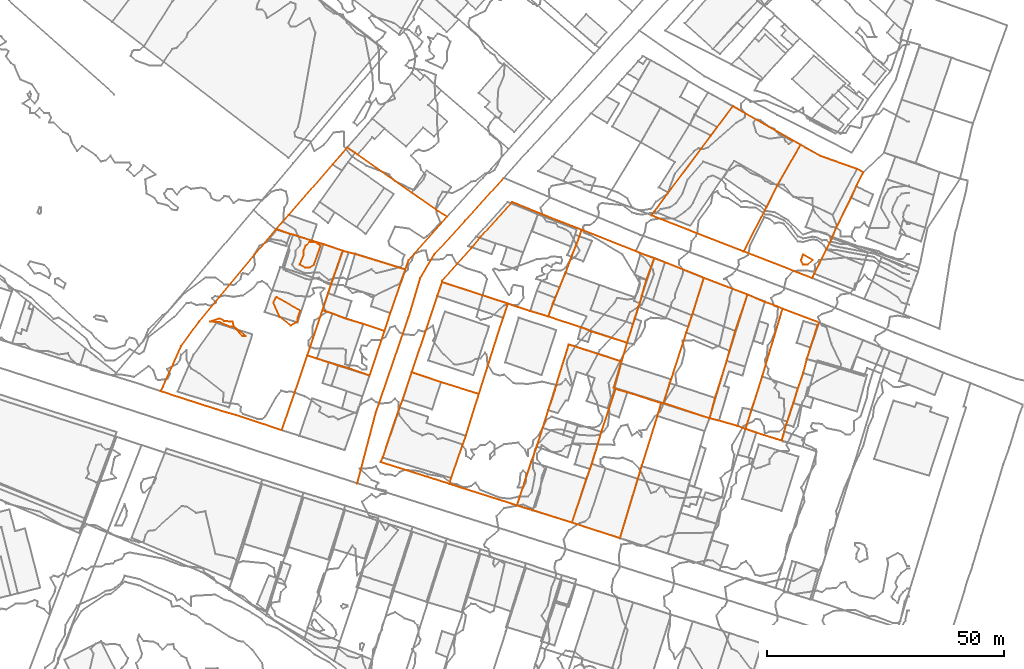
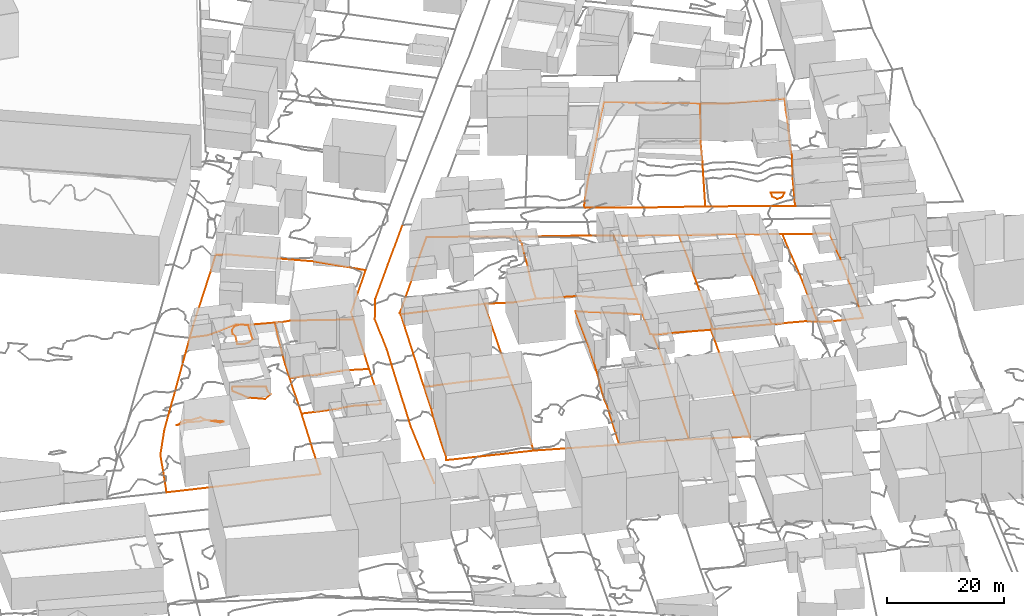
# Not in any storey, part 198 of 419: 22 proxies.
"""IFC2X3 model written with IfcOpenShell, lengths in metres."""

from ifc_helpers import new_model, entity, si_unit, frame, origin_with_axes, place, context, subcontext, project, element, save


model = new_model("IFC2X3")

# Units and contexts
model_context = context("Model", 3, precision=1e-05, world=origin_with_axes())
body_context = subcontext(model_context, "Body", "Model", "MODEL_VIEW")
ifc_project = project(units=[si_unit("AREAUNIT", "SQUARE_METRE"), si_unit("LENGTHUNIT", "METRE")], contexts=[model_context])

# Proxies
proxy_1_placement = place(None, frame((860.0920204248, 156.7976909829, 75.8), z_axis=(0.0, 0.0, 1.0), x_axis=(1.0, 0.0, 0.0)))
element("IfcBuildingElementProxy", 1, at=proxy_1_placement, Name="Route 216", ObjectType="NOTDEFINED", context=body_context, shape_type="GeometricCurveSet", body=[
    entity("IfcGeometricCurveSet", [entity("IfcPolyline", [entity("IfcCartesianPoint", [30.9, 64.3999999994, 3.8]), entity("IfcCartesianPoint", [22.8, 55.3999999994, 3.7]), entity("IfcCartesianPoint", [16.2, 48.1999999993, 3.4]), entity("IfcCartesianPoint", [13.3, 43.2999999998, 3.2]), entity("IfcCartesianPoint", [10.8, 34.8999999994, 2.9]), entity("IfcCartesianPoint", [3.9, 14.7999999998, 1.5]), entity("IfcCartesianPoint", [0.0, 0.0, 0.0])])]),
])
proxy_2_placement = place(None, frame((818.6120204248, 176.2276909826, 76.6150715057), z_axis=(0.0, 0.0, 1.0), x_axis=(1.0, 0.0, 0.0)))
element("IfcBuildingElementProxy", 2, at=proxy_2_placement, Name="Cadastre 124", ObjectType="NOTDEFINED", context=body_context, shape_type="GeometricCurveSet", body=[
    entity("IfcGeometricCurveSet", [entity("IfcPolyline", [entity("IfcCartesianPoint", [24.29, 34.1100000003, 2.8999694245]), entity("IfcCartesianPoint", [24.61, 34.1100000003, 2.899393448]), entity("IfcCartesianPoint", [27.33, 33.1699999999, 2.9764266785]), entity("IfcCartesianPoint", [27.97, 33.0099999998, 3.1379470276]), entity("IfcCartesianPoint", [31.91, 31.7300000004, 4.5368541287]), entity("IfcCartesianPoint", [34.4, 30.9900000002, 4.0248895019]), entity("IfcCartesianPoint", [38.4399999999, 29.6100000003, 3.8782244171]), entity("IfcCartesianPoint", [35.97, 22.6200000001, 2.209250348]), entity("IfcCartesianPoint", [35.33, 20.6200000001, 1.6354044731]), entity("IfcCartesianPoint", [34.15, 17.0599999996, 1.371855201]), entity("IfcCartesianPoint", [30.95, 7.54, 0.9707933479]), entity("IfcCartesianPoint", [25.59, -8.2400000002, -0.1774764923]), entity("IfcCartesianPoint", [15.9399999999, -5.04, -0.0717098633]), entity("IfcCartesianPoint", [14.0600000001, -4.5199999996, -0.0953141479]), entity("IfcCartesianPoint", [11.71, -3.7999999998, -0.0895963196]), entity("IfcCartesianPoint", [0.0, 0.0, 0.0]), entity("IfcCartesianPoint", [0.52, 0.96, 0.0236245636]), entity("IfcCartesianPoint", [4.35, 9.5200000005, 0.5968636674]), entity("IfcCartesianPoint", [8.13, 14.71, 1.256738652]), entity("IfcCartesianPoint", [24.29, 34.1100000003, 2.8999694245])])]),
])
proxy_3_placement = place(None, frame((842.9020204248, 210.337690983, 79.5150409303), z_axis=(0.0, 0.0, 1.0), x_axis=(1.0, 0.0, 0.0)))
element("IfcBuildingElementProxy", 3, at=proxy_3_placement, Name="Cadastre 127", ObjectType="NOTDEFINED", context=body_context, shape_type="GeometricCurveSet", body=[
    entity("IfcGeometricCurveSet", [entity("IfcPolyline", [entity("IfcCartesianPoint", [0.0, 0.0, 0.0]), entity("IfcCartesianPoint", [2.72, 3.0299999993, 0.7708949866]), entity("IfcCartesianPoint", [11.98, 13.6799999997, 1.2359597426]), entity("IfcCartesianPoint", [15.0699999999, 17.2399999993, 1.5703568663]), entity("IfcCartesianPoint", [16.75, 16.1099999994, 1.6693973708]), entity("IfcCartesianPoint", [17.27, 15.75, 1.7071150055]), entity("IfcCartesianPoint", [28.64, 7.7399999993, 1.2141356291]), entity("IfcCartesianPoint", [33.7899999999, 4.1699999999, 0.3341988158]), entity("IfcCartesianPoint", [36.1499999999, 2.6799999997, -0.1968492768]), entity("IfcCartesianPoint", [28.0399999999, -6.4300000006, -0.5349222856]), entity("IfcCartesianPoint", [27.34, -8.46, -0.601481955]), entity("IfcCartesianPoint", [16.7899999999, -5.1900000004, 0.8812071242]), entity("IfcCartesianPoint", [15.39, -4.8600000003, 0.883437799]), entity("IfcCartesianPoint", [14.1499999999, -4.5, 0.9782549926]), entity("IfcCartesianPoint", [10.11, -3.1200000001, 1.1249200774]), entity("IfcCartesianPoint", [7.62, -2.3799999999, 1.6368847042]), entity("IfcCartesianPoint", [3.6799999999, -1.1000000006, 0.237977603]), entity("IfcCartesianPoint", [3.0399999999, -0.9400000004, 0.0764572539]), entity("IfcCartesianPoint", [0.3199999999, 0.0, -0.0005759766]), entity("IfcCartesianPoint", [0.0, 0.0, 0.0])])]),
])
proxy_4_placement = place(None, frame((852.7620204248, 193.2876909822, 77.9869267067), z_axis=(0.0, 0.0, 1.0), x_axis=(1.0, 0.0, 0.0)))
element("IfcBuildingElementProxy", 4, at=proxy_4_placement, Name="Cadastre 128", ObjectType="NOTDEFINED", context=body_context, shape_type="GeometricCurveSet", body=[
    entity("IfcGeometricCurveSet", [entity("IfcPolyline", [entity("IfcCartesianPoint", [4.2899999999, 12.5500000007, 2.5063692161]), entity("IfcCartesianPoint", [5.53, 12.1900000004, 2.4115520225]), entity("IfcCartesianPoint", [6.9299999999, 11.8600000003, 2.4093213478]), entity("IfcCartesianPoint", [17.48, 8.5900000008, 0.9266322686]), entity("IfcCartesianPoint", [14.33, -0.6099999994, 0.3020736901]), entity("IfcCartesianPoint", [13.08, -4.3699999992, 0.0419753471]), entity("IfcCartesianPoint", [8.6, -2.8699999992, 0.402640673]), entity("IfcCartesianPoint", [4.97, -1.7699999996, 0.2713469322]), entity("IfcCartesianPoint", [2.12, -0.6799999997, 0.1374939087]), entity("IfcCartesianPoint", [0.0, 0.0, 0.0]), entity("IfcCartesianPoint", [1.1799999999, 3.5600000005, 0.2635492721]), entity("IfcCartesianPoint", [1.8199999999, 5.5600000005, 0.8373951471]), entity("IfcCartesianPoint", [4.2899999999, 12.5500000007, 2.5063692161])])]),
])
proxy_5_placement = place(None, frame((849.5620204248, 183.7676909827, 77.5858648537), z_axis=(0.0, 0.0, 1.0), x_axis=(1.0, 0.0, 0.0)))
element("IfcBuildingElementProxy", 5, at=proxy_5_placement, Name="Cadastre 129", ObjectType="NOTDEFINED", context=body_context, shape_type="GeometricCurveSet", body=[
    entity("IfcGeometricCurveSet", [entity("IfcPolyline", [entity("IfcCartesianPoint", [16.28, 5.1500000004, 0.4430372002]), entity("IfcCartesianPoint", [13.17, -4.2400000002, -0.0792419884]), entity("IfcCartesianPoint", [8.76, -2.71, 0.2060274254]), entity("IfcCartesianPoint", [6.53, -2.1399999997, 0.1897836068]), entity("IfcCartesianPoint", [4.53, -1.4900000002, 0.0401333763]), entity("IfcCartesianPoint", [2.0600000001, -0.6799999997, 0.0139716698]), entity("IfcCartesianPoint", [0.0, 0.0, 0.0]), entity("IfcCartesianPoint", [3.2000000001, 9.5199999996, 0.401061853]), entity("IfcCartesianPoint", [5.3200000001, 8.8399999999, 0.5385557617]), entity("IfcCartesianPoint", [8.17, 7.75, 0.6724087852]), entity("IfcCartesianPoint", [11.8, 6.6500000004, 0.8037025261]), entity("IfcCartesianPoint", [16.28, 5.1500000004, 0.4430372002])])]),
])
proxy_6_placement = place(None, frame((865.0120204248, 161.2676909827, 76.1453077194), z_axis=(0.0, 0.0, 1.0), x_axis=(1.0, 0.0, 0.0)))
element("IfcBuildingElementProxy", 6, at=proxy_6_placement, Name="Cadastre 131", ObjectType="NOTDEFINED", context=body_context, shape_type="GeometricCurveSet", body=[
    entity("IfcGeometricCurveSet", [entity("IfcPolyline", [entity("IfcCartesianPoint", [6.59, 18.9699999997, 1.4277777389]), entity("IfcCartesianPoint", [12.75, 16.8499999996, 1.5331804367]), entity("IfcCartesianPoint", [20.73, 14.3799999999, 1.3268158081]), entity("IfcCartesianPoint", [17.98, 5.5300000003, 1.1402940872]), entity("IfcCartesianPoint", [14.88, -3.3499999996, 0.1026116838]), entity("IfcCartesianPoint", [14.53, -4.5899999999, -0.3269861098]), entity("IfcCartesianPoint", [0.0, 0.0, 0.0]), entity("IfcCartesianPoint", [0.47, 0.9100000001, 0.0874661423]), entity("IfcCartesianPoint", [1.5699999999, 4.3600000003, 0.3893198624]), entity("IfcCartesianPoint", [4.03, 11.5499999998, 0.9216023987]), entity("IfcCartesianPoint", [4.64, 13.0899999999, 1.0460944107]), entity("IfcCartesianPoint", [6.59, 18.9699999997, 1.4277777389])])]),
])
proxy_7_placement = place(None, frame((871.6020204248, 180.2376909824, 77.5730854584), z_axis=(0.0, 0.0, 1.0), x_axis=(1.0, 0.0, 0.0)))
element("IfcBuildingElementProxy", 7, at=proxy_7_placement, Name="Cadastre 132", ObjectType="NOTDEFINED", context=body_context, shape_type="GeometricCurveSet", body=[
    entity("IfcGeometricCurveSet", [entity("IfcPolyline", [entity("IfcCartesianPoint", [0.0, 0.0, 0.0]), entity("IfcCartesianPoint", [5.39, 16.0300000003, 1.16049375]), entity("IfcCartesianPoint", [6.4, 19.0, 1.292557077]), entity("IfcCartesianPoint", [20.28, 14.4199999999, 1.408185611]), entity("IfcCartesianPoint", [19.25, 11.4500000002, 1.0933612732]), entity("IfcCartesianPoint", [14.14, -4.5899999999, -0.1009619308]), entity("IfcCartesianPoint", [6.16, -2.1200000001, 0.1054026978]), entity("IfcCartesianPoint", [0.0, 0.0, 0.0])])]),
])
proxy_8_placement = place(None, frame((878.0020204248, 199.2376909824, 78.8656425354), z_axis=(0.0, 0.0, 1.0), x_axis=(1.0, 0.0, 0.0)))
element("IfcBuildingElementProxy", 8, at=proxy_8_placement, Name="Cadastre 136", ObjectType="NOTDEFINED", context=body_context, shape_type="GeometricCurveSet", body=[
    entity("IfcGeometricCurveSet", [entity("IfcPolyline", [entity("IfcCartesianPoint", [13.88, -4.5800000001, 0.1156285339]), entity("IfcCartesianPoint", [0.0, 0.0, 0.0]), entity("IfcCartesianPoint", [0.01, 0.3600000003, 0.009036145]), entity("IfcCartesianPoint", [6.45, 7.5100000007, 0.3009968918]), entity("IfcCartesianPoint", [8.14, 9.5499999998, 0.4168305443]), entity("IfcCartesianPoint", [14.78, 16.8700000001, 0.6649102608]), entity("IfcCartesianPoint", [21.16, 14.2400000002, 0.0875611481]), entity("IfcCartesianPoint", [29.4, 11.0300000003, -0.8435298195]), entity("IfcCartesianPoint", [29.1, 9.9900000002, -0.5538712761]), entity("IfcCartesianPoint", [28.14, 7.4500000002, 0.2035326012]), entity("IfcCartesianPoint", [27.41, 5.6699999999, 0.1279365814]), entity("IfcCartesianPoint", [26.03, 1.9400000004, -0.0836418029]), entity("IfcCartesianPoint", [24.76, -1.1899999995, -0.2867459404]), entity("IfcCartesianPoint", [23.8099999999, -3.3599999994, -0.2440994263]), entity("IfcCartesianPoint", [23.34, -4.6600000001, -0.3177447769]), entity("IfcCartesianPoint", [22.42, -7.29, -0.1891802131]), entity("IfcCartesianPoint", [18.5499999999, -6.0999999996, -0.3218977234]), entity("IfcCartesianPoint", [13.88, -4.5800000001, 0.1156285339])])]),
])
proxy_9_placement = place(None, frame((900.4220204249, 191.9476909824, 78.6764623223), z_axis=(0.0, 0.0, 1.0), x_axis=(1.0, 0.0, 0.0)))
element("IfcBuildingElementProxy", 9, at=proxy_9_placement, Name="Cadastre 137", ObjectType="NOTDEFINED", context=body_context, shape_type="GeometricCurveSet", body=[
    entity("IfcGeometricCurveSet", [entity("IfcPolyline", [entity("IfcCartesianPoint", [16.6, -5.5199999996, -2.5641612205]), entity("IfcCartesianPoint", [9.0399999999, -3.1200000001, -0.9398603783]), entity("IfcCartesianPoint", [6.9099999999, -2.2599999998, -0.4621178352]), entity("IfcCartesianPoint", [0.0, 0.0, 0.0]), entity("IfcCartesianPoint", [0.9199999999, 2.6299999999, -0.1285645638]), entity("IfcCartesianPoint", [1.3899999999, 3.9300000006, -0.0549192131]), entity("IfcCartesianPoint", [2.34, 6.1000000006, -0.0975657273]), entity("IfcCartesianPoint", [3.61, 9.2300000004, 0.1055384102]), entity("IfcCartesianPoint", [4.99, 12.96, 0.3171167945]), entity("IfcCartesianPoint", [5.72, 14.7400000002, 0.3927128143]), entity("IfcCartesianPoint", [6.6799999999, 17.2800000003, -0.364691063]), entity("IfcCartesianPoint", [6.98, 18.3200000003, -0.6543496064]), entity("IfcCartesianPoint", [19.5, 13.3399999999, -1.7378859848]), entity("IfcCartesianPoint", [22.3199999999, 12.3000000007, -2.1426386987]), entity("IfcCartesianPoint", [20.6299999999, 7.7400000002, -1.4184629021]), entity("IfcCartesianPoint", [19.6899999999, 4.3600000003, -1.6044635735]), entity("IfcCartesianPoint", [19.25, 2.7800000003, -1.7677321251]), entity("IfcCartesianPoint", [18.9399999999, 2.0200000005, -1.956939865]), entity("IfcCartesianPoint", [18.21, -0.4299999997, -2.3753419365]), entity("IfcCartesianPoint", [17.83, -1.5199999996, -2.3421604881]), entity("IfcCartesianPoint", [16.6, -5.5199999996, -2.5641612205])])]),
])
proxy_10_placement = place(None, frame((893.7620204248, 152.1376909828, 74.8282110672), z_axis=(0.0, 0.0, 1.0), x_axis=(1.0, 0.0, 0.0)))
element("IfcBuildingElementProxy", 10, at=proxy_10_placement, Name="Cadastre 138", ObjectType="NOTDEFINED", context=body_context, shape_type="GeometricCurveSet", body=[
    entity("IfcGeometricCurveSet", [entity("IfcPolyline", [entity("IfcCartesianPoint", [0.0, 0.0, 0.0]), entity("IfcCartesianPoint", [3.0399999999, 9.2000000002, 1.1669357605]), entity("IfcCartesianPoint", [4.22, 12.3700000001, 0.3344899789]), entity("IfcCartesianPoint", [5.4399999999, 16.3499999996, 1.7290168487]), entity("IfcCartesianPoint", [6.64, 20.0700000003, 2.4459028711]), entity("IfcCartesianPoint", [8.0499999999, 24.3300000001, 2.9097696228]), entity("IfcCartesianPoint", [8.36, 25.5999999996, 3.1183612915]), entity("IfcCartesianPoint", [10.95, 33.9299999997, 3.3242838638]), entity("IfcCartesianPoint", [22.1, 30.3200000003, 0.9811261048]), entity("IfcCartesianPoint", [21.9299999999, 29.96, 0.9753879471]), entity("IfcCartesianPoint", [21.4399999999, 27.8799999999, 0.8677893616]), entity("IfcCartesianPoint", [20.4399999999, 24.8700000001, 0.7973075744]), entity("IfcCartesianPoint", [20.7899999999, 24.54, 0.6799490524]), entity("IfcCartesianPoint", [19.4399999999, 20.3399999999, 0.9766324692]), entity("IfcCartesianPoint", [19.13, 19.4199999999, 1.1097471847]), entity("IfcCartesianPoint", [17.8199999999, 15.4900000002, 0.9061707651]), entity("IfcCartesianPoint", [15.85, 8.79, -0.6032353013]), entity("IfcCartesianPoint", [15.4199999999, 7.6299999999, -0.5402791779]), entity("IfcCartesianPoint", [14.63, 5.5300000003, -0.5234136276]), entity("IfcCartesianPoint", [11.63, -3.6399999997, -0.7938090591]), entity("IfcCartesianPoint", [3.37, -1.0099999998, -0.0731583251]), entity("IfcCartesianPoint", [0.0, 0.0, 0.0])])]),
])
proxy_11_placement = place(None, frame((879.5420204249, 156.6776909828, 75.8183216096), z_axis=(0.0, 0.0, 1.0), x_axis=(1.0, 0.0, 0.0)))
element("IfcBuildingElementProxy", 11, at=proxy_11_placement, Name="Cadastre 139", ObjectType="NOTDEFINED", context=body_context, shape_type="GeometricCurveSet", body=[
    entity("IfcGeometricCurveSet", [entity("IfcPolyline", [entity("IfcCartesianPoint", [0.0, 0.0, 0.0]), entity("IfcCartesianPoint", [0.35, 1.2400000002, 0.4295977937]), entity("IfcCartesianPoint", [3.45, 10.1200000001, 1.4672801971]), entity("IfcCartesianPoint", [6.2, 18.9699999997, 1.6538019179]), entity("IfcCartesianPoint", [11.3099999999, 35.0099999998, 2.848125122]), entity("IfcCartesianPoint", [12.34, 37.9799999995, 3.1629494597]), entity("IfcCartesianPoint", [17.0099999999, 36.46, 2.7254232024]), entity("IfcCartesianPoint", [20.88, 35.2699999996, 2.8581407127]), entity("IfcCartesianPoint", [27.7899999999, 33.0099999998, 2.3960228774]), entity("IfcCartesianPoint", [29.9199999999, 32.1499999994, 1.9182803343]), entity("IfcCartesianPoint", [37.48, 29.75, 0.2939794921]), entity("IfcCartesianPoint", [36.3199999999, 25.7800000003, -0.0089844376]), entity("IfcCartesianPoint", [25.1699999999, 29.3899999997, 2.3341733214]), entity("IfcCartesianPoint", [22.58, 21.0599999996, 2.1282507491]), entity("IfcCartesianPoint", [22.2699999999, 19.79, 1.9196590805]), entity("IfcCartesianPoint", [20.86, 15.5300000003, 1.4557923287]), entity("IfcCartesianPoint", [19.6599999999, 11.8099999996, 0.7389063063]), entity("IfcCartesianPoint", [18.4399999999, 7.8300000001, -0.6556205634]), entity("IfcCartesianPoint", [17.2599999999, 4.6600000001, 0.1768252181]), entity("IfcCartesianPoint", [14.22, -4.54, -0.9901105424]), entity("IfcCartesianPoint", [0.0, 0.0, 0.0])])]),
])
proxy_12_placement = place(None, frame((914.2020204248, 177.0076909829, 75.6255186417), z_axis=(0.0, 0.0, 1.0), x_axis=(1.0, 0.0, 0.0)))
element("IfcBuildingElementProxy", 12, at=proxy_12_placement, Name="Cadastre 153", ObjectType="NOTDEFINED", context=body_context, shape_type="GeometricCurveSet", body=[
    entity("IfcGeometricCurveSet", [entity("IfcPolyline", [entity("IfcCartesianPoint", [1.66, 5.4500000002, 0.1838185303]), entity("IfcCartesianPoint", [2.8200000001, 9.4199999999, 0.4867824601]), entity("IfcCartesianPoint", [4.05, 13.4199999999, 0.7087831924]), entity("IfcCartesianPoint", [4.4300000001, 14.5099999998, 0.6756017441]), entity("IfcCartesianPoint", [5.16, 16.96, 1.0940038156]), entity("IfcCartesianPoint", [5.4700000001, 17.7199999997, 1.2832115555]), entity("IfcCartesianPoint", [5.91, 19.2999999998, 1.4464801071]), entity("IfcCartesianPoint", [6.85, 22.6799999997, 1.6324807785]), entity("IfcCartesianPoint", [8.54, 27.2400000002, 0.9083049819]), entity("IfcCartesianPoint", [10.8300000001, 26.3700000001, 0.6682823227]), entity("IfcCartesianPoint", [19.0, 23.1200000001, -0.1446197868]), entity("IfcCartesianPoint", [16.62, 15.5299999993, -0.2151200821]), entity("IfcCartesianPoint", [16.4600000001, 15.1399999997, -0.2172199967]), entity("IfcCartesianPoint", [15.7100000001, 12.79, -0.242718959]), entity("IfcCartesianPoint", [15.3, 11.5499999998, -0.2935989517]), entity("IfcCartesianPoint", [12.0900000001, 1.7199999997, -0.4471760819]), entity("IfcCartesianPoint", [11.8, 0.8999999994, -0.4843157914]), entity("IfcCartesianPoint", [10.48, -3.2800000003, -0.7131172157]), entity("IfcCartesianPoint", [10.0, -3.3100000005, -0.6461875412]), entity("IfcCartesianPoint", [2.9300000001, -1.04, -0.2586301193]), entity("IfcCartesianPoint", [0.35, -0.3300000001, -0.117358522]), entity("IfcCartesianPoint", [0.0, 0.0, 0.0]), entity("IfcCartesianPoint", [1.0, 3.0099999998, 0.0704817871]), entity("IfcCartesianPoint", [1.49, 5.0899999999, 0.1780803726]), entity("IfcCartesianPoint", [1.66, 5.4500000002, 0.1838185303])])]),
])
proxy_13_placement = place(None, frame((905.3920204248, 148.4976909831, 74.0344020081), z_axis=(0.0, 0.0, 1.0), x_axis=(1.0, 0.0, 0.0)))
element("IfcBuildingElementProxy", 13, at=proxy_13_placement, Name="Cadastre 154", ObjectType="NOTDEFINED", context=body_context, shape_type="GeometricCurveSet", body=[
    entity("IfcGeometricCurveSet", [entity("IfcPolyline", [entity("IfcCartesianPoint", [9.1599999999, 28.1799999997, 1.4737581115]), entity("IfcCartesianPoint", [11.74, 27.4699999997, 1.3324865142]), entity("IfcCartesianPoint", [18.8099999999, 25.1999999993, 0.9449290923]), entity("IfcCartesianPoint", [18.01, 22.46, 0.7372697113]), entity("IfcCartesianPoint", [14.6899999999, 11.8899999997, 0.0988922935]), entity("IfcCartesianPoint", [13.86, 9.2399999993, -0.1804474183]), entity("IfcCartesianPoint", [10.12, -3.2700000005, -0.9005193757]), entity("IfcCartesianPoint", [0.0, 0.0, 0.0]), entity("IfcCartesianPoint", [3.0, 9.1699999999, 0.2703954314]), entity("IfcCartesianPoint", [3.7899999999, 11.2699999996, 0.2535298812]), entity("IfcCartesianPoint", [4.22, 12.4299999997, 0.1905737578]), entity("IfcCartesianPoint", [6.1899999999, 19.1299999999, 1.6999798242]), entity("IfcCartesianPoint", [7.5, 23.0599999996, 1.9035562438]), entity("IfcCartesianPoint", [7.8099999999, 23.9799999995, 1.7704415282]), entity("IfcCartesianPoint", [9.1599999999, 28.1799999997, 1.4737581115])])]),
])
proxy_14_placement = place(None, frame((934.4120204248, 170.5076909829, 74.480795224), z_axis=(0.0, 0.0, 1.0), x_axis=(1.0, 0.0, 0.0)))
element("IfcBuildingElementProxy", 14, at=proxy_14_placement, Name="Cadastre 156", ObjectType="NOTDEFINED", context=body_context, shape_type="GeometricCurveSet", body=[
    entity("IfcGeometricCurveSet", [entity("IfcPolyline", [entity("IfcCartesianPoint", [0.0, 0.0, 0.0]), entity("IfcCartesianPoint", [1.1499999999, 4.3300000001, -0.0991298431]), entity("IfcCartesianPoint", [3.6, 12.04, 0.1098153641]), entity("IfcCartesianPoint", [4.1899999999, 14.2299999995, 0.121832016]), entity("IfcCartesianPoint", [5.4199999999, 18.4199999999, 0.1059049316]), entity("IfcCartesianPoint", [7.98, 26.0800000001, 0.1668662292]), entity("IfcCartesianPoint", [11.63, 24.54, -0.2810963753]), entity("IfcCartesianPoint", [14.1599999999, 23.6399999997, -0.4970970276]), entity("IfcCartesianPoint", [15.38, 23.0899999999, -0.6687941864]), entity("IfcCartesianPoint", [14.8199999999, 21.2599999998, -0.6519932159]), entity("IfcCartesianPoint", [11.09, 8.79, -0.3504777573]), entity("IfcCartesianPoint", [8.85, 1.8099999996, -0.4168684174]), entity("IfcCartesianPoint", [7.9199999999, -1.1699999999, -0.6204843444]), entity("IfcCartesianPoint", [7.58, -2.25, -0.7706770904]), entity("IfcCartesianPoint", [5.88, -1.6000000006, -0.4192275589]), entity("IfcCartesianPoint", [1.98, -0.4900000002, -0.1661968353]), entity("IfcCartesianPoint", [0.0, 0.0, 0.0])])]),
])
proxy_15_placement = place(None, frame((924.6820204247, 173.7276909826, 74.9124014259), z_axis=(0.0, 0.0, 1.0), x_axis=(1.0, 0.0, 0.0)))
element("IfcBuildingElementProxy", 15, at=proxy_15_placement, Name="Cadastre 158", ObjectType="NOTDEFINED", context=body_context, shape_type="GeometricCurveSet", body=[
    entity("IfcGeometricCurveSet", [entity("IfcPolyline", [entity("IfcCartesianPoint", [0.0, 0.0, 0.0]), entity("IfcCartesianPoint", [1.3200000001, 4.1799999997, 0.2288014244]), entity("IfcCartesianPoint", [1.6100000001, 5.0, 0.2659411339]), entity("IfcCartesianPoint", [4.8200000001, 14.8300000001, 0.419518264]), entity("IfcCartesianPoint", [5.2300000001, 16.0700000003, 0.4703982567]), entity("IfcCartesianPoint", [5.9800000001, 18.4199999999, 0.4958972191]), entity("IfcCartesianPoint", [6.14, 18.8099999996, 0.4979971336]), entity("IfcCartesianPoint", [8.52, 26.4000000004, 0.5684974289]), entity("IfcCartesianPoint", [17.7100000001, 22.8600000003, -0.2647399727]), entity("IfcCartesianPoint", [15.15, 15.2000000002, -0.3257012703]), entity("IfcCartesianPoint", [13.92, 11.0099999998, -0.309774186]), entity("IfcCartesianPoint", [13.3300000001, 8.8200000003, -0.3217908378]), entity("IfcCartesianPoint", [10.88, 1.1100000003, -0.5307360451]), entity("IfcCartesianPoint", [9.7300000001, -3.2199999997, -0.4316062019]), entity("IfcCartesianPoint", [0.0, 0.0, 0.0])])]),
])
proxy_16_placement = place(None, frame((922.1420204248, 213.3076909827, 77.1270204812), z_axis=(0.0, 0.0, 1.0), x_axis=(1.0, 0.0, 0.0)))
element("IfcBuildingElementProxy", 16, at=proxy_16_placement, Name="Cadastre 159", ObjectType="NOTDEFINED", context=body_context, shape_type="GeometricCurveSet", body=[
    entity("IfcGeometricCurveSet", [entity("IfcPolyline", [entity("IfcCartesianPoint", [31.4199999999, 14.8499999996, 1.5980731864]), entity("IfcCartesianPoint", [26.51, 6.2599999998, 0.8113694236]), entity("IfcCartesianPoint", [24.23, 1.6699999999, 0.1067279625]), entity("IfcCartesianPoint", [19.45, -7.6100000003, -2.0030206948]), entity("IfcCartesianPoint", [7.6899999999, -3.04, -0.9474086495]), entity("IfcCartesianPoint", [0.0, 0.0, 0.0]), entity("IfcCartesianPoint", [0.5399999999, 0.7400000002, 0.6707083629]), entity("IfcCartesianPoint", [3.5599999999, 4.7800000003, 1.6081820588]), entity("IfcCartesianPoint", [12.53, 16.8099999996, 1.9841809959]), entity("IfcCartesianPoint", [13.8199999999, 18.5700000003, 2.0434080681]), entity("IfcCartesianPoint", [17.1899999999, 23.0099999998, 1.9221213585]), entity("IfcCartesianPoint", [31.4199999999, 14.8499999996, 1.5980731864])])]),
])
proxy_17_placement = place(None, frame((941.5920204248, 205.6976909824, 75.1239997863), z_axis=(0.0, 0.0, 1.0), x_axis=(1.0, 0.0, 0.0)))
element("IfcBuildingElementProxy", 17, at=proxy_17_placement, Name="Cadastre 170", ObjectType="NOTDEFINED", context=body_context, shape_type="GeometricCurveSet", body=[
    entity("IfcGeometricCurveSet", [entity("IfcPolyline", [entity("IfcCartesianPoint", [18.7000000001, 3.0600000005, 2.4431591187]), entity("IfcCartesianPoint", [18.65, 2.79, 2.4147543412]), entity("IfcCartesianPoint", [17.42, 0.4300000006, -0.3809000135]), entity("IfcCartesianPoint", [14.88, -4.71, -1.4959928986]), entity("IfcCartesianPoint", [14.46, -5.6299999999, -1.5779188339]), entity("IfcCartesianPoint", [0.0, 0.0, 0.0]), entity("IfcCartesianPoint", [4.78, 9.2800000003, 2.1097486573]), entity("IfcCartesianPoint", [7.0600000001, 13.8700000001, 2.8143901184]), entity("IfcCartesianPoint", [11.97, 22.46, 3.6010938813]), entity("IfcCartesianPoint", [16.23, 20.1200000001, 3.5347728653]), entity("IfcCartesianPoint", [23.92, 17.3799999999, 3.3582859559]), entity("IfcCartesianPoint", [25.23, 16.6699999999, 3.4658218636]), entity("IfcCartesianPoint", [23.71, 13.71, 3.4874720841]), entity("IfcCartesianPoint", [22.6800000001, 11.3399999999, 3.4132169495]), entity("IfcCartesianPoint", [19.72, 5.4000000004, 2.9227588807]), entity("IfcCartesianPoint", [18.7000000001, 3.0600000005, 2.4431591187])])]),
])
proxy_18_placement = place(None, frame((941.9920204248, 168.2576909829, 73.7101181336), z_axis=(0.0, 0.0, 1.0), x_axis=(1.0, 0.0, 0.0)))
element("IfcBuildingElementProxy", 18, at=proxy_18_placement, Name="Cadastre 173", ObjectType="NOTDEFINED", context=body_context, shape_type="GeometricCurveSet", body=[
    entity("IfcGeometricCurveSet", [entity("IfcPolyline", [entity("IfcCartesianPoint", [0.0, 0.0, 0.0]), entity("IfcCartesianPoint", [0.34, 1.0800000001, 0.150192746]), entity("IfcCartesianPoint", [1.27, 4.0599999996, 0.353808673]), entity("IfcCartesianPoint", [3.51, 11.04, 0.4201993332]), entity("IfcCartesianPoint", [7.24, 23.5099999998, 0.1186838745]), entity("IfcCartesianPoint", [7.8, 25.3399999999, 0.101882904]), entity("IfcCartesianPoint", [15.46, 22.4399999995, -0.6987373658]), entity("IfcCartesianPoint", [15.16, 21.8099999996, -0.6164302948]), entity("IfcCartesianPoint", [13.67, 17.1799999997, -0.1601202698]), entity("IfcCartesianPoint", [12.9300000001, 14.71, -0.0366421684]), entity("IfcCartesianPoint", [12.16, 11.7599999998, -0.2800049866]), entity("IfcCartesianPoint", [11.03, 8.5099999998, -0.2344769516]), entity("IfcCartesianPoint", [10.08, 5.4100000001, -0.3293224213]), entity("IfcCartesianPoint", [8.8099999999, 1.5199999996, -0.1109458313]), entity("IfcCartesianPoint", [8.5599999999, 0.9299999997, -0.0407194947]), entity("IfcCartesianPoint", [8.15, -0.5800000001, -0.2664199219]), entity("IfcCartesianPoint", [7.9300000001, -1.4300000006, -0.3504172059]), entity("IfcCartesianPoint", [7.62, -2.4500000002, -0.4316643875]), entity("IfcCartesianPoint", [6.53, -2.1200000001, -0.3048432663]), entity("IfcCartesianPoint", [2.33, -0.8100000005, -0.2459335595]), entity("IfcCartesianPoint", [1.58, -0.5300000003, -0.2196517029]), entity("IfcCartesianPoint", [0.0, 0.0, 0.0])])]),
])
proxy_19_placement = place(None, frame((953.7170442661, 203.8976909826, 74.0), z_axis=(0.0, 0.0, 1.0), x_axis=(1.0, 0.0, 0.0)))
element("IfcBuildingElementProxy", 19, at=proxy_19_placement, Name="Contour 74.0 m", ObjectType="NOTDEFINED", context=body_context, shape_type="GeometricCurveSet", body=[
    entity("IfcGeometricCurveSet", [entity("IfcPolyline", [entity("IfcCartesianPoint", [1.3749761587, -0.999966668, 0.0]), entity("IfcCartesianPoint", [2.3749428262, 0.0, 0.0]), entity("IfcCartesianPoint", [0.3749761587, 1.1428882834, 0.0]), entity("IfcCartesianPoint", [0.0, 0.0, 0.0]), entity("IfcCartesianPoint", [0.3749761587, -0.999966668, 0.0]), entity("IfcCartesianPoint", [1.3749761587, -0.999966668, 0.0])])]),
])
proxy_20_placement = place(None, frame((847.9670174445, 202.8976909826, 81.0), z_axis=(0.0, 0.0, 1.0), x_axis=(1.0, 0.0, 0.0)))
element("IfcBuildingElementProxy", 20, at=proxy_20_placement, Name="Contour 81.0 m", ObjectType="NOTDEFINED", context=body_context, shape_type="GeometricCurveSet", body=[
    entity("IfcGeometricCurveSet", [entity("IfcPolyline", [entity("IfcCartesianPoint", [3.0107141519, 0.0, 0.0]), entity("IfcCartesianPoint", [2.1250029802, -0.5849024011, 0.0]), entity("IfcCartesianPoint", [1.1250029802, -0.611761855, 0.0]), entity("IfcCartesianPoint", [0.0, 0.0, 0.0]), entity("IfcCartesianPoint", [0.8538121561, 2.0, 0.0]), entity("IfcCartesianPoint", [0.839284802, 3.0, 0.0]), entity("IfcCartesianPoint", [1.2619879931, 4.0, 0.0]), entity("IfcCartesianPoint", [2.1250029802, 4.8181818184, 0.0]), entity("IfcCartesianPoint", [3.1250029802, 4.8032743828, 0.0]), entity("IfcCartesianPoint", [4.4361148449, 4.0, 0.0]), entity("IfcCartesianPoint", [3.0107141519, 0.0, 0.0])])]),
])
proxy_21_placement = place(None, frame((842.4253537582, 194.8976909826, 78.0), z_axis=(0.0, 0.0, 1.0), x_axis=(1.0, 0.0, 0.0)))
element("IfcBuildingElementProxy", 21, at=proxy_21_placement, Name="Contour 78.0 m", ObjectType="NOTDEFINED", context=body_context, shape_type="GeometricCurveSet", body=[
    entity("IfcGeometricCurveSet", [entity("IfcPolyline", [entity("IfcCartesianPoint", [5.1238120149, -4.0, 0.0]), entity("IfcCartesianPoint", [3.6666666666, -4.7916679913, 0.0]), entity("IfcCartesianPoint", [1.3508814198, -3.0, 0.0]), entity("IfcCartesianPoint", [0.0, 0.0, 0.0]), entity("IfcCartesianPoint", [0.466636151, 1.0, 0.0]), entity("IfcCartesianPoint", [0.6666666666, 1.1428882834, 0.0]), entity("IfcCartesianPoint", [5.6666666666, -1.6665818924, 0.0]), entity("IfcCartesianPoint", [5.1666722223, -3.0, 0.0]), entity("IfcCartesianPoint", [5.1238120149, -4.0, 0.0])])]),
])
proxy_22_placement = place(None, frame((829.0919204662, 190.8976909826, 78.0), z_axis=(0.0, 0.0, 1.0), x_axis=(1.0, 0.0, 0.0)))
element("IfcBuildingElementProxy", 22, at=proxy_22_placement, Name="Contour 78.0 m", ObjectType="NOTDEFINED", context=body_context, shape_type="GeometricCurveSet", body=[
    entity("IfcGeometricCurveSet", [entity("IfcPolyline", [entity("IfcCartesianPoint", [7.5001249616, -3.0, 0.0]), entity("IfcCartesianPoint", [6.8334544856, -3.0, 0.0]), entity("IfcCartesianPoint", [5.0000999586, -1.0000199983, 0.0]), entity("IfcCartesianPoint", [4.0000999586, -1.0000111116, 0.0]), entity("IfcCartesianPoint", [2.0000999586, -0.1333163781, 0.0]), entity("IfcCartesianPoint", [0.0, 0.0, 0.0]), entity("IfcCartesianPoint", [2.0000999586, 0.6665818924, 0.0]), entity("IfcCartesianPoint", [3.0000999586, 0.1111079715, 0.0]), entity("IfcCartesianPoint", [4.750052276, 0.0, 0.0]), entity("IfcCartesianPoint", [5.0001249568, -1.0, 0.0]), entity("IfcCartesianPoint", [7.5001249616, -3.0, 0.0])])]),
])

save(model, "model.ifc")
